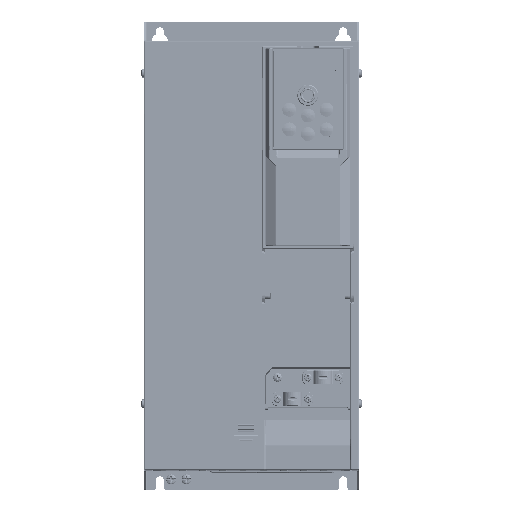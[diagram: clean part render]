
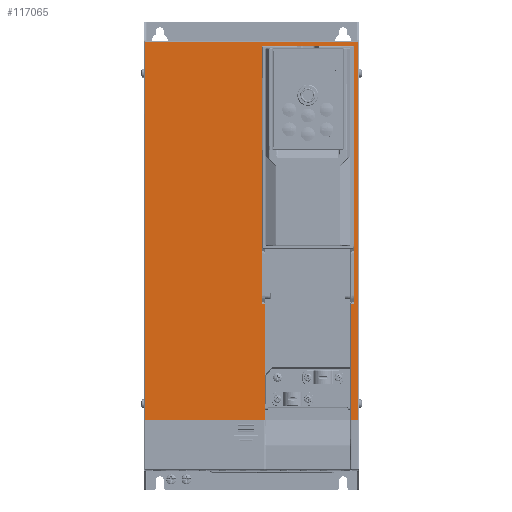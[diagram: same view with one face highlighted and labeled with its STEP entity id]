
A CAD part, top view. The second image highlights one B-rep face of the part: STEP entity #117065.
In plain terms, the highlighted planar face has unit normal (0, 0, 1).
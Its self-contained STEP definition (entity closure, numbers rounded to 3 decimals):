
#6376=DIRECTION('',(-1.,0.,0.));
#6377=VECTOR('',#6376,168.4);
#6378=CARTESIAN_POINT('',(39.7,3.7,0.));
#6379=LINE('',#6378,#6377);
#6383=DIRECTION('',(0.,1.,0.));
#6384=VECTOR('',#6383,299.155);
#6385=CARTESIAN_POINT('',(39.7,-295.455,0.));
#6386=LINE('',#6385,#6384);
#6390=DIRECTION('',(1.,0.,0.));
#6391=VECTOR('',#6390,5.42);
#6392=CARTESIAN_POINT('',(34.28,-295.455,0.));
#6393=LINE('',#6392,#6391);
#6397=DIRECTION('',(0.,-1.,0.));
#6398=VECTOR('',#6397,91.355);
#6399=CARTESIAN_POINT('',(34.28,-204.101,0.));
#6400=LINE('',#6399,#6398);
#6404=DIRECTION('',(-1.,0.,0.));
#6405=VECTOR('',#6404,72.4);
#6406=CARTESIAN_POINT('',(36.2,0.2,0.));
#6407=LINE('',#6406,#6405);
#6411=DIRECTION('',(0.,1.,0.));
#6412=VECTOR('',#6411,91.355);
#6413=CARTESIAN_POINT('',(-34.28,-295.455,0.));
#6414=LINE('',#6413,#6412);
#6418=DIRECTION('',(0.,-1.,0.));
#6419=VECTOR('',#6418,299.155);
#6420=CARTESIAN_POINT('',(-128.7,3.7,0.));
#6421=LINE('',#6420,#6419);
#18167=DIRECTION('',(1.,0.,0.));
#18168=VECTOR('',#18167,94.42);
#18169=CARTESIAN_POINT('',(-128.7,-295.455,0.));
#18170=LINE('',#18169,#18168);
#18843=DIRECTION('',(0.,-1.,0.));
#18844=VECTOR('',#18843,204.301);
#18845=CARTESIAN_POINT('',(36.2,0.2,0.));
#18846=LINE('',#18845,#18844);
#18901=DIRECTION('',(-1.,0.,0.));
#18902=VECTOR('',#18901,1.92);
#18903=CARTESIAN_POINT('',(36.2,-204.101,0.));
#18904=LINE('',#18903,#18902);
#18933=DIRECTION('',(-1.,0.,0.));
#18934=VECTOR('',#18933,1.92);
#18935=CARTESIAN_POINT('',(-34.28,-204.101,0.));
#18936=LINE('',#18935,#18934);
#18969=DIRECTION('',(0.,1.,0.));
#18970=VECTOR('',#18969,204.301);
#18971=CARTESIAN_POINT('',(-36.2,-204.101,0.));
#18972=LINE('',#18971,#18970);
#105198=CARTESIAN_POINT('',(36.2,0.2,0.));
#105199=CARTESIAN_POINT('',(-36.2,0.2,0.));
#105200=VERTEX_POINT('',#105198);
#105201=VERTEX_POINT('',#105199);
#108609=CARTESIAN_POINT('',(36.2,-204.101,0.));
#108610=VERTEX_POINT('',#108609);
#108637=CARTESIAN_POINT('',(-36.2,-204.101,0.));
#108638=VERTEX_POINT('',#108637);
#108655=CARTESIAN_POINT('',(34.28,-204.101,0.));
#108656=CARTESIAN_POINT('',(34.28,-295.455,0.));
#108657=VERTEX_POINT('',#108655);
#108658=VERTEX_POINT('',#108656);
#108659=CARTESIAN_POINT('',(-34.28,-295.455,0.));
#108660=CARTESIAN_POINT('',(-34.28,-204.101,0.));
#108661=VERTEX_POINT('',#108659);
#108662=VERTEX_POINT('',#108660);
#108773=CARTESIAN_POINT('',(39.7,3.7,0.));
#108774=CARTESIAN_POINT('',(-128.7,3.7,0.));
#108775=VERTEX_POINT('',#108773);
#108776=VERTEX_POINT('',#108774);
#108781=CARTESIAN_POINT('',(-128.7,-295.455,0.));
#108782=VERTEX_POINT('',#108781);
#108785=CARTESIAN_POINT('',(39.7,-295.455,0.));
#108786=VERTEX_POINT('',#108785);
#117034=CARTESIAN_POINT('',(0.,0.,0.));
#117035=DIRECTION('',(0.,0.,1.));
#117036=DIRECTION('',(1.,0.,0.));
#117037=AXIS2_PLACEMENT_3D('',#117034,#117035,#117036);
#117038=PLANE('',#117037);
#117040=ORIENTED_EDGE('',*,*,#117039,.F.);
#117042=ORIENTED_EDGE('',*,*,#117041,.F.);
#117044=ORIENTED_EDGE('',*,*,#117043,.F.);
#117046=ORIENTED_EDGE('',*,*,#117045,.F.);
#117048=ORIENTED_EDGE('',*,*,#117047,.F.);
#117050=ORIENTED_EDGE('',*,*,#117049,.F.);
#117052=ORIENTED_EDGE('',*,*,#117051,.T.);
#117054=ORIENTED_EDGE('',*,*,#117053,.F.);
#117056=ORIENTED_EDGE('',*,*,#117055,.F.);
#117058=ORIENTED_EDGE('',*,*,#117057,.F.);
#117060=ORIENTED_EDGE('',*,*,#117059,.F.);
#117062=ORIENTED_EDGE('',*,*,#117061,.F.);
#117063=EDGE_LOOP('',(#117040,#117042,#117044,#117046,#117048,#117050,#117052,
#117054,#117056,#117058,#117060,#117062));
#117064=FACE_OUTER_BOUND('',#117063,.F.);
#117065=ADVANCED_FACE('',(#117064),#117038,.T.);
#117039=EDGE_CURVE('',#108775,#108776,#6379,.T.);
#117041=EDGE_CURVE('',#108786,#108775,#6386,.T.);
#117043=EDGE_CURVE('',#108658,#108786,#6393,.T.);
#117045=EDGE_CURVE('',#108657,#108658,#6400,.T.);
#117047=EDGE_CURVE('',#108610,#108657,#18904,.T.);
#117049=EDGE_CURVE('',#105200,#108610,#18846,.T.);
#117051=EDGE_CURVE('',#105200,#105201,#6407,.T.);
#117053=EDGE_CURVE('',#108638,#105201,#18972,.T.);
#117055=EDGE_CURVE('',#108662,#108638,#18936,.T.);
#117057=EDGE_CURVE('',#108661,#108662,#6414,.T.);
#117059=EDGE_CURVE('',#108782,#108661,#18170,.T.);
#117061=EDGE_CURVE('',#108776,#108782,#6421,.T.);
